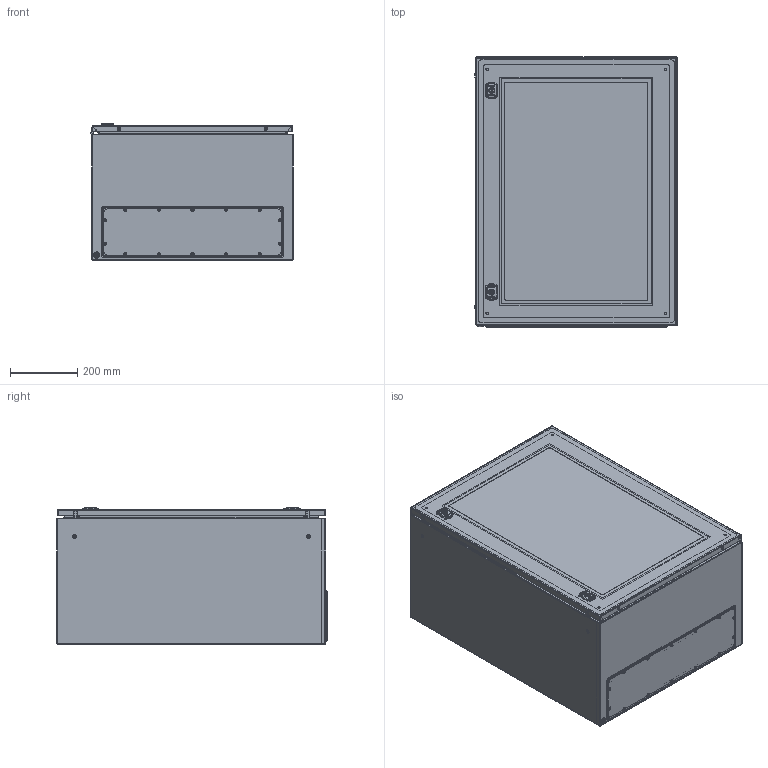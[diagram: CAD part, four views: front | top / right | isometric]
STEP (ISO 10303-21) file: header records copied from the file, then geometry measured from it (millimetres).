
FILE_DESCRIPTION (( 'STEP AP203' ), '1' );
FILE_NAME ('R5STX0864.STEP', '2022-04-28T09:14:40', ( '' ), ( '' ), 'SwSTEP 2.0', 'SolidWorks 2020', '' );
FILE_SCHEMA (( 'CONFIG_CONTROL_DESIGN' ));
Length unit declared in the file: millimetre
Products named in the file (41): RB.0048.09.00.0 捘_-04; RB.2171.00.00.0 捘; PT Ì6õ16 Cu ISO13918_straight; AC00C356-R_AC00c356(A7100031); Glass ST_0800x0600; PT Ì8õ25 cl.4.8 Cu ISO13918_straight; 娗p ST; AC00C112-R; A7100032-R; RB.0048.10.00.0 捘_-04; RB.0048.11.01.0_-04; TPA.08.0001.00.00.0; RB.2171.00.01.0; AC00C348-R; RB.0048.01.01.1_-29; M8 DIN 6923 cl.8,0 Zinc_straight; TPA.08.0002.00.00.0; TPA.08.0003.00.00.0; RB.2237.00.00.0; RB.0048.00.02.1_-09; Pin 1.2x12 GOST 3128-70; RB.0048.02.00.1 C縫-29; Glue ST_0800x0600; RB.0048.01.00.1 C縫-29; RB.0048.09.01.0_-04; RB.0048.01.02.0_-11; RB.2238.00.00.0; TPA.08.0060.00.00.0 捘; AC00C317-R; Ì6õ12 A5100231_straight; M6x16 DIN 7985 PZ cl.4,8 Zinc_straight; RB.2070.00.00.0; PF 7,5x15 door ST_0800x0600; R5STX0864; AC00C343-R; M4x10 DIN 7500 M PZ cl.4,8 Zinc_straight; M4x6 DIN 7985 PH cl.4,8 Zinc_straight; AC00C380-R; RB.0048.11.00.0 C縫-04; PF 4x8 flange ST_04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
Assembly tree (71 placements, depth 4):
  R5STX0864
    RB.0048.02.00.1 C縫-29
      RB.0048.01.00.1 C縫-29
        RB.0048.01.01.1_-29
        RB.0048.01.02.0_-11
        PT Ì8õ25 cl.4.8 Cu ISO13918_straight  x4
        PT Ì6õ16 Cu ISO13918_straight  x4
      AC00C317-R  x4
      AC00C316-R
      RB.2171.00.00.0 捘  x2
        RB.2171.00.01.0
        Pin 1.2x12 GOST 3128-70
      娗p ST  x2
      M4x6 DIN 7985 PH cl.4,8 Zinc_straight  x2
    RB.0048.11.00.0 C縫-04
      RB.0048.11.01.0_-04
      PF 4x8 flange ST_04
    RB.2238.00.00.0  x2
    M8 DIN 6923 cl.8,0 Zinc_straight  x4
    RB.0048.10.00.0 捘_-04
      RB.0048.09.00.0 捘_-04
        RB.0048.09.01.0_-04
        RB.2237.00.00.0  x2
        Ì6õ12 A5100231_straight  x4
      AC00C112-R  x4
      PF 7,5x15 door ST_0800x0600
      TPA.08.0060.00.00.0 捘  x2
        A7100032-R
        AC00C343-R
        AC00C348-R
        TPA.08.0001.00.00.0
        TPA.08.0002.00.00.0
        TPA.08.0003.00.00.0
        M6x16 DIN 7985 PZ cl.4,8 Zinc_straight
      Glass ST_0800x0600
      Glue ST_0800x0600
      AC00C356-R_AC00c356(A7100031)  x2
    AC00C380-R  x2
    RB.0048.00.02.1_-09
    RB.2070.00.00.0  x4
    M4x10 DIN 7500 M PZ cl.4,8 Zinc_straight  x2
Bounding box: 602.8 x 803.5 x 408.48 mm (x, y, z)
Volume: 5132506.5 mm3; surface area: 5620930.1 mm2
Topology: 72 solids, 72 shells, 5124 faces, 12713 edges, 7975 vertices
Faces by surface type: plane 2515, cylinder 1375, bspline 464, torus 416, cone 276, sphere 78
Entity records: 123041 total; most frequent: CARTESIAN_POINT 35088, ORIENTED_EDGE 17364, DIRECTION 16677, EDGE_CURVE 8682, LINE 5675, VECTOR 5675, VERTEX_POINT 5510, AXIS2_PLACEMENT_3D 5501
